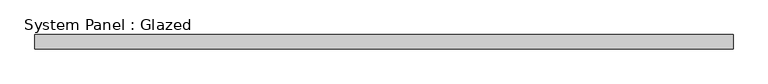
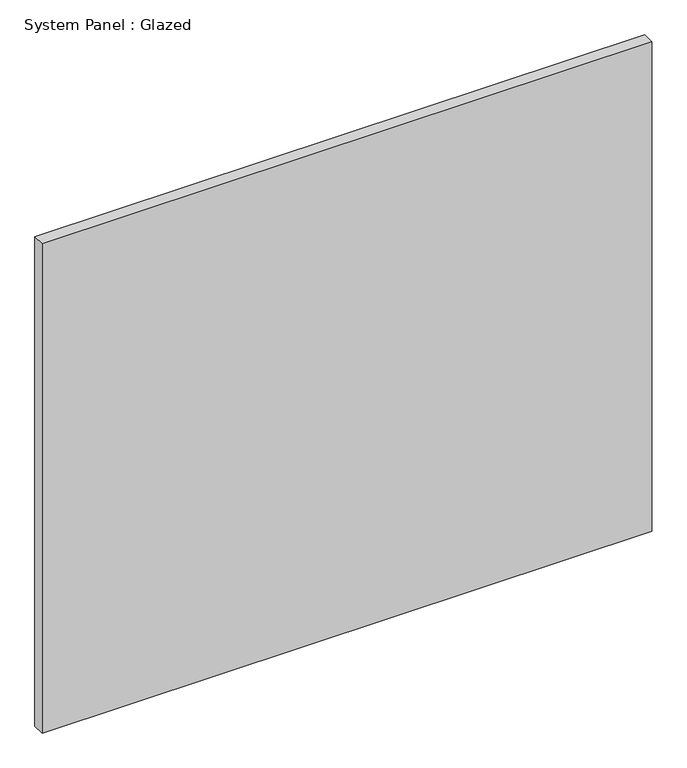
"""IFC4 building model written with IfcOpenShell, lengths in millimetres: plate geometry, System Panel : Glazed."""

from ifc_helpers import new_model, si_unit, origin, origin_with_axes, place, context, project, spatial, polyline, outline, extrude, source, transform, mapped, element, save


def system_panel_glazed_f862e6b4(model_context):
    return source(origin(), model_context, "Body", "SweptSolid", [
        extrude(outline(polyline([(628.3695429, 19.05), (-628.3695429, 19.05), (-628.3695429, 44.45), (628.3695429, 44.45), (628.3695429, 19.05)])), origin_with_axes(), (0.0, 0.0, 1.0), 1066.0767085),
    ])


if __name__ == "__main__":
    model = new_model("IFC4")
    model_context = context("Model", 3, world=origin())
    ifc_project = project(units=[si_unit("LENGTHUNIT", "METRE", prefix="MILLI")], contexts=[model_context])
    site = spatial("IfcSite", under=ifc_project)
    building = spatial("IfcBuilding", under=site)
    placement = place(None, origin())
    system_panel_glazed_shape = system_panel_glazed_f862e6b4(model_context)
    element("IfcPlate", 1, ObjectType="System Panel : Glazed", at=placement, inside=building, context=model_context, shape_type="MappedRepresentation", body=[
        mapped(system_panel_glazed_shape, transform((0.0, 0.0, 0.0), x_axis=(1.0, 0.0, 0.0), y_axis=(0.0, 1.0, 0.0), z_axis=(0.0, 0.0, 1.0))),
    ])
    save(model, "model.ifc")
